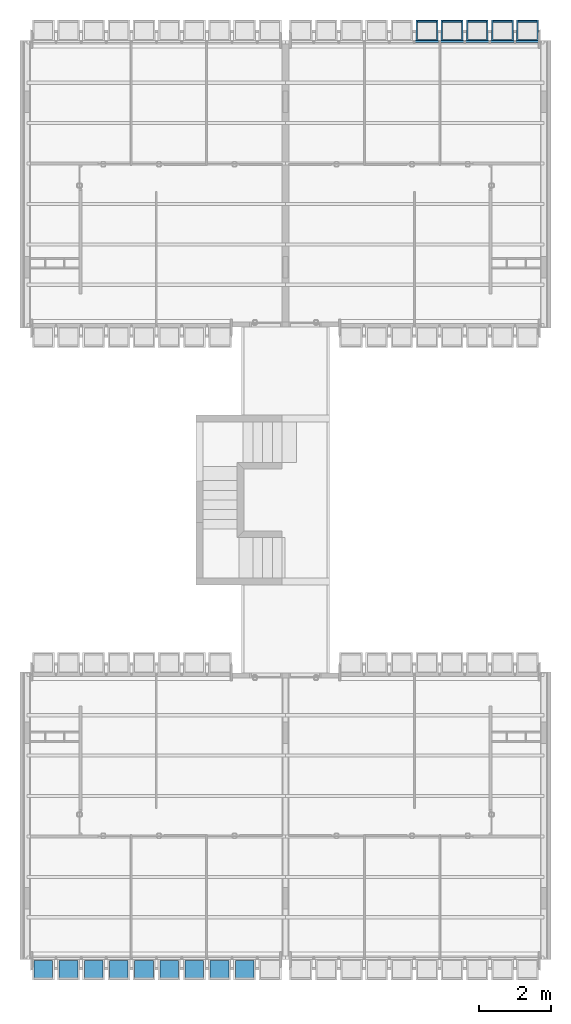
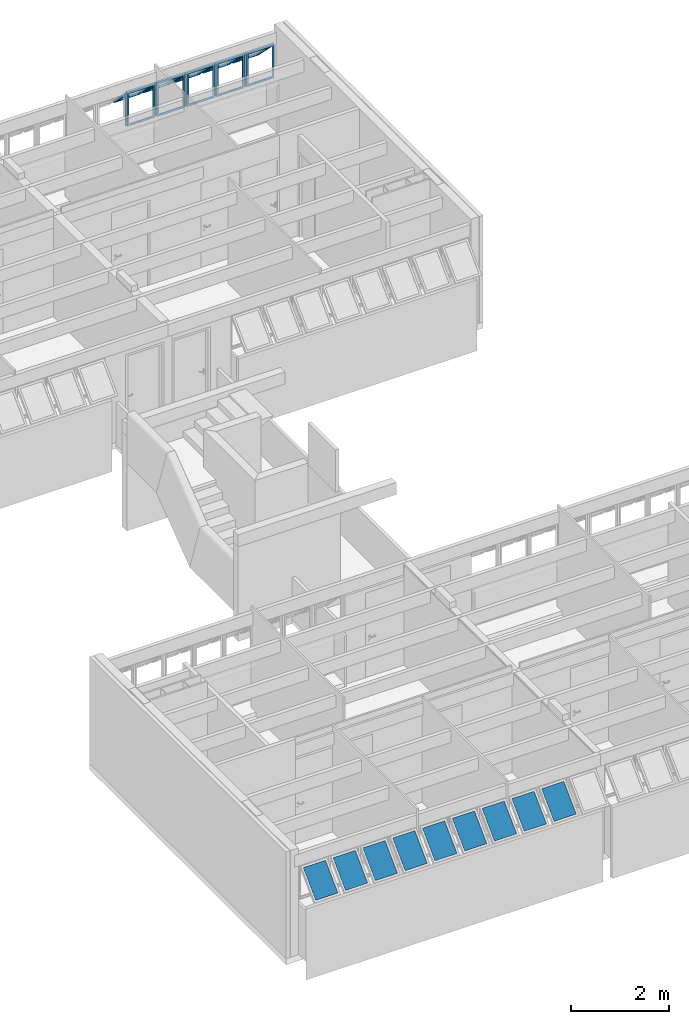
# One storey, part 35 of 38: 14 building element parts, 16 elements without a shape of their own.
"""IFC2X3 building model written with IfcOpenShell, lengths in millimetres."""

from ifc_helpers import new_model, entity, si_unit, converted_unit, derived_unit, money_unit, direction, frame, origin_with_axes, place, context, subcontext, project, spatial, faceted_brep, source, transform, mapped, material, type_object, element, aggregate, save


model = new_model("IFC2X3")

# Units and contexts
model_context = context("Model", 3, precision=0.01, world=origin_with_axes(), true_north=direction((0.0, 1.0)))
body_context = subcontext(model_context, "Body", "Model", "MODEL_VIEW")
ifc_project = project(units=[si_unit("LENGTHUNIT", "METRE", prefix="MILLI"), si_unit("AREAUNIT", "SQUARE_METRE"), si_unit("VOLUMEUNIT", "CUBIC_METRE"), converted_unit("PLANEANGLEUNIT", "DEGREE", entity("IfcPlaneAngleMeasure", 0.0174532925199), si_unit("PLANEANGLEUNIT", "RADIAN"), dimensions=[0, 0, 0, 0, 0, 0, 0]), money_unit("USD"), converted_unit("TIMEUNIT", "Year", entity("IfcTimeMeasure", 31556926.0), si_unit("TIMEUNIT", "SECOND"), dimensions=[0, 0, 1, 0, 0, 0, 0]), si_unit("MASSUNIT", "GRAM", prefix="KILO"), si_unit("THERMODYNAMICTEMPERATUREUNIT", "DEGREE_CELSIUS"), si_unit("LUMINOUSINTENSITYUNIT", "LUMEN"), si_unit("ENERGYUNIT", "JOULE", prefix="MEGA"), derived_unit("THERMALCONDUCTANCEUNIT", [(si_unit("POWERUNIT", "WATT"), 1), (si_unit("LENGTHUNIT", "METRE"), -1), (si_unit("THERMODYNAMICTEMPERATUREUNIT", "KELVIN"), -1)]), derived_unit("SPECIFICHEATCAPACITYUNIT", [(si_unit("ENERGYUNIT", "JOULE"), 1), (si_unit("MASSUNIT", "GRAM", prefix="KILO"), -1), (si_unit("THERMODYNAMICTEMPERATUREUNIT", "KELVIN"), -1)]), derived_unit("MASSDENSITYUNIT", [(si_unit("MASSUNIT", "GRAM", prefix="KILO"), 1), (si_unit("VOLUMEUNIT", "CUBIC_METRE"), -1)])], contexts=[model_context])

# Site, building, storey
site_placement = place(None, origin_with_axes())
site = spatial("IfcSite", under=ifc_project, at=site_placement, Name="Local", CompositionType="ELEMENT")
building_placement = place(site_placement, origin_with_axes())
building = spatial("IfcBuilding", under=site, at=building_placement, Name="Construção", CompositionType="ELEMENT")
storey_placement = place(building_placement, frame((0.0, 0.0, 2650.0), z_axis=(0.0, 0.0, 1.0), x_axis=(1.0, 0.0, 0.0)))
storey = spatial("IfcBuildingStorey", under=building, at=storey_placement, Name="Segundo Pavimento", CompositionType="ELEMENT", Elevation=2650.0)

# Window, plate, building element part
window_style = type_object("IfcWindowStyle", Name="Tipo de Parede Cortina", ConstructionType="NOTDEFINED", OperationType="NOTDEFINED", ParameterTakesPrecedence=False, Sizeable=False)
window_1_placement = place(storey_placement, frame((8520.0, 25844.9790225, 1355.02054151), z_axis=(0.0, 0.0, 1.0), x_axis=(1.0, 0.0, 0.0)))
window_1 = element("IfcWindow", 1, at=window_1_placement, inside=storey, type_object=window_style, Name="APTO8-JANELA-001")
plate_type = type_object("IfcPlateType", Name="Painel Principal 690 x 845 x 20", PredefinedType="CURTAIN_PANEL")
plate_1_placement = place(window_1_placement, frame((3500.0, 0.0, 422.499945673), z_axis=(0.0, 0.0, 1.0), x_axis=(1.0, 0.0, 0.0)))
plate_1 = element("IfcPlate", 2, at=plate_1_placement, type_object=plate_type, Name="APTO8-Painel-Prin-013")
ifc_material_1 = material(Name="Alumínio")
shared_shape_1 = source(origin_with_axes(), body_context, "Body", "Brep", [
    faceted_brep([(25.0000036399, 0.0, -40.0), (674.999997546, 0.0, -40.0), (674.999997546, 0.0, -35.0), (25.0000036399, 0.0, -35.0), (70.0000036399, 45.0, -40.0), (629.999997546, 45.0, -40.0), (629.999997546, 45.0, -35.0), (70.0000036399, 45.0, -35.0)], [[[0, 1, 2, 3]], [[0, 4, 5, 1]], [[1, 5, 6, 2]], [[3, 2, 6, 7]], [[4, 0, 3, 7]], [[5, 4, 7, 6]]]),
    faceted_brep([(674.999997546, 0.0, -40.0), (674.999997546, 844.999891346, -40.0), (674.999997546, 844.999891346, -35.0), (674.999997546, 0.0, -35.0), (629.999997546, 45.0, -40.0), (629.999997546, 799.999891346, -40.0), (629.999997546, 799.999891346, -35.0), (629.999997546, 45.0, -35.0)], [[[0, 1, 2, 3]], [[0, 4, 5, 1]], [[1, 5, 6, 2]], [[3, 2, 6, 7]], [[4, 0, 3, 7]], [[5, 4, 7, 6]]]),
    faceted_brep([(25.0000036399, 844.999891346, -40.0), (70.0000036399, 799.999891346, -40.0), (70.0000036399, 799.999891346, -35.0), (25.0000036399, 844.999891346, -35.0), (674.999997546, 844.999891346, -40.0), (629.999997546, 799.999891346, -40.0), (629.999997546, 799.999891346, -35.0), (674.999997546, 844.999891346, -35.0)], [[[0, 1, 2, 3]], [[0, 4, 5, 1]], [[1, 5, 6, 2]], [[3, 2, 6, 7]], [[4, 0, 3, 7]], [[5, 4, 7, 6]]]),
    faceted_brep([(25.0000036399, 0.0, -40.0), (70.0000036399, 45.0, -40.0), (70.0000036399, 45.0, -35.0), (25.0000036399, 0.0, -35.0), (25.0000036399, 844.999891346, -40.0), (70.0000036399, 799.999891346, -40.0), (70.0000036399, 799.999891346, -35.0), (25.0000036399, 844.999891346, -35.0)], [[[0, 1, 2, 3]], [[0, 4, 5, 1]], [[1, 5, 6, 2]], [[3, 2, 6, 7]], [[4, 0, 3, 7]], [[5, 4, 7, 6]]]),
    faceted_brep([(25.0000036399, 0.0, -35.0), (674.999997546, 0.0, -35.0), (674.999997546, 0.0, 15.0), (25.0000036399, 0.0, 15.0), (45.0000036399, 20.0, -35.0), (654.999997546, 20.0, -35.0), (654.999997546, 20.0, 15.0), (45.0000036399, 20.0, 15.0)], [[[0, 1, 2, 3]], [[0, 4, 5, 1]], [[1, 5, 6, 2]], [[3, 2, 6, 7]], [[4, 0, 3, 7]], [[5, 4, 7, 6]]]),
    faceted_brep([(674.999997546, 0.0, -35.0), (674.999997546, 844.999891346, -35.0), (674.999997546, 844.999891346, 15.0), (674.999997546, 0.0, 15.0), (654.999997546, 20.0, -35.0), (654.999997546, 824.999891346, -35.0), (654.999997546, 824.999891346, 15.0), (654.999997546, 20.0, 15.0)], [[[0, 1, 2, 3]], [[0, 4, 5, 1]], [[1, 5, 6, 2]], [[3, 2, 6, 7]], [[4, 0, 3, 7]], [[5, 4, 7, 6]]]),
    faceted_brep([(25.0000036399, 844.999891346, -35.0), (45.0000036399, 824.999891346, -35.0), (45.0000036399, 824.999891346, 15.0), (25.0000036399, 844.999891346, 15.0), (674.999997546, 844.999891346, -35.0), (654.999997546, 824.999891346, -35.0), (654.999997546, 824.999891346, 15.0), (674.999997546, 844.999891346, 15.0)], [[[0, 1, 2, 3]], [[0, 4, 5, 1]], [[1, 5, 6, 2]], [[3, 2, 6, 7]], [[4, 0, 3, 7]], [[5, 4, 7, 6]]]),
    faceted_brep([(25.0000036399, 0.0, -35.0), (45.0000036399, 20.0, -35.0), (45.0000036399, 20.0, 15.0), (25.0000036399, 0.0, 15.0), (25.0000036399, 844.999891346, -35.0), (45.0000036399, 824.999891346, -35.0), (45.0000036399, 824.999891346, 15.0), (25.0000036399, 844.999891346, 15.0)], [[[0, 1, 2, 3]], [[0, 4, 5, 1]], [[1, 5, 6, 2]], [[3, 2, 6, 7]], [[4, 0, 3, 7]], [[5, 4, 7, 6]]]),
    faceted_brep([(694.999995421, 0.0, -10.0), (694.999995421, 844.999891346, -10.0), (694.999995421, 844.999891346, 10.0), (694.999995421, 0.0, 10.0), (674.999997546, 0.0, -10.0), (674.999997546, 844.999891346, -10.0), (674.999997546, 844.999891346, 10.0), (674.999997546, 0.0, 10.0)], [[[0, 1, 2, 3]], [[0, 4, 5, 1]], [[1, 5, 6, 2]], [[3, 2, 6, 7]], [[4, 0, 3, 7]], [[5, 4, 7, 6]]]),
    faceted_brep([(5.00000576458, 844.999891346, -10.0), (5.00000576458, 0.0, -10.0), (5.00000576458, 0.0, 10.0), (5.00000576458, 844.999891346, 10.0), (25.0000036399, 844.999891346, -10.0), (25.0000036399, 0.0, -10.0), (25.0000036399, 0.0, 10.0), (25.0000036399, 844.999891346, 10.0)], [[[0, 1, 2, 3]], [[0, 4, 5, 1]], [[1, 5, 6, 2]], [[3, 2, 6, 7]], [[4, 0, 3, 7]], [[5, 4, 7, 6]]]),
    faceted_brep([(90.0000036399, 252.243475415, 517.045737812), (90.0000036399, 757.824747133, 11.4644660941), (90.0000036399, 796.715620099, 50.3553390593), (90.0000036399, 291.13434838, 555.936610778), (45.0000036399, 220.423670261, 548.865542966), (45.0000036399, 789.644552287, -20.3553390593), (45.0000036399, 828.535425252, 18.5355339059), (45.0000036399, 259.314543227, 587.756415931)], [[[0, 1, 2, 3]], [[0, 4, 5, 1]], [[1, 5, 6, 2]], [[3, 2, 6, 7]], [[4, 0, 3, 7]], [[5, 4, 7, 6]]]),
    faceted_brep([(654.999997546, 220.423670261, 548.865542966), (654.999997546, 789.644552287, -20.3553390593), (654.999997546, 828.535425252, 18.5355339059), (654.999997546, 259.314543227, 587.756415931), (609.999997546, 252.243475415, 517.045737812), (609.999997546, 757.824747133, 11.4644660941), (609.999997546, 796.715620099, 50.3553390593), (609.999997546, 291.13434838, 555.936610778)], [[[0, 1, 2, 3]], [[0, 4, 5, 1]], [[1, 5, 6, 2]], [[3, 2, 6, 7]], [[4, 0, 3, 7]], [[5, 4, 7, 6]]]),
    faceted_brep([(654.999997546, 220.423670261, 548.865542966), (609.999997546, 252.243475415, 517.045737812), (609.999997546, 291.13434838, 555.936610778), (654.999997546, 259.314543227, 587.756415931), (45.0000036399, 220.423670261, 548.865542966), (90.0000036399, 252.243475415, 517.045737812), (90.0000036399, 291.13434838, 555.936610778), (45.0000036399, 259.314543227, 587.756415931)], [[[0, 1, 2, 3]], [[0, 4, 5, 1]], [[1, 5, 6, 2]], [[3, 2, 6, 7]], [[4, 0, 3, 7]], [[5, 4, 7, 6]]]),
    faceted_brep([(45.0000036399, 789.644552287, -20.3553390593), (90.0000036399, 757.824747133, 11.4644660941), (90.0000036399, 796.715620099, 50.3553390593), (45.0000036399, 828.535425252, 18.5355339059), (654.999997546, 789.644552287, -20.3553390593), (609.999997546, 757.824747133, 11.4644660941), (609.999997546, 796.715620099, 50.3553390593), (654.999997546, 828.535425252, 18.5355339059)], [[[0, 1, 2, 3]], [[0, 4, 5, 1]], [[1, 5, 6, 2]], [[3, 2, 6, 7]], [[4, 0, 3, 7]], [[5, 4, 7, 6]]]),
])
building_element_part_1_placement = place(plate_1_placement, origin_with_axes())
building_element_part_1 = element("IfcBuildingElementPart", 3, at=building_element_part_1_placement, material=ifc_material_1, Name="Alumínio", context=body_context, shape_type="MappedRepresentation", body=[
    mapped(shared_shape_1, transform((350.0, 0.0, -422.499945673), x_axis=(-1.0, 0.0, 0.0), y_axis=(0.0, 0.0, 1.0), z_axis=(0.0, 1.0, 0.0))),
])
aggregate(plate_1, [building_element_part_1])

# Window, plates, building element parts
window_2_placement = place(storey_placement, frame((6250.0, 315.020977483, 1355.02054151), z_axis=(0.0, 0.0, 1.0), x_axis=(1.0, 0.0, 0.0)))
window_2 = element("IfcWindow", 4, at=window_2_placement, inside=storey, type_object=window_style, Name="APTO5-JANELA-001")
plate_2_placement = place(window_2_placement, frame((0.0, 0.0, 422.499945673), z_axis=(0.0, 0.0, 1.0), x_axis=(-1.0, 0.0, 0.0)))
plate_2 = element("IfcPlate", 5, at=plate_2_placement, type_object=plate_type, Name="APTO5-Painel-Prin-030")
ifc_material_2 = material(Name="Vidro")
shared_shape_2 = source(origin_with_axes(), body_context, "Body", "Brep", [
    faceted_brep([(90.0000036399, 272.749572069, 537.551834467), (609.999997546, 272.749572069, 537.551834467), (609.999997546, 284.063280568, 548.865542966), (90.0000036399, 284.063280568, 548.865542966), (90.0000036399, 778.330843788, 31.9705627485), (609.999997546, 778.330843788, 31.9705627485), (609.999997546, 789.644552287, 43.2842712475), (90.0000036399, 789.644552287, 43.2842712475)], [[[0, 1, 2, 3]], [[0, 4, 5, 1]], [[1, 5, 6, 2]], [[3, 2, 6, 7]], [[4, 0, 3, 7]], [[5, 4, 7, 6]]]),
])
building_element_part_2_placement = place(plate_2_placement, origin_with_axes())
building_element_part_2 = element("IfcBuildingElementPart", 6, at=building_element_part_2_placement, material=ifc_material_2, Name="Vidro", context=body_context, shape_type="MappedRepresentation", body=[
    mapped(shared_shape_2, transform((350.0, 0.0, -422.499945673), x_axis=(-1.0, 0.0, 0.0), y_axis=(0.0, 0.0, 1.0), z_axis=(0.0, 1.0, 0.0))),
])
aggregate(plate_2, [building_element_part_2])
plate_3_placement = place(window_2_placement, frame((-700.0, 0.0, 422.499945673), z_axis=(0.0, 0.0, 1.0), x_axis=(-1.0, 0.0, 0.0)))
plate_3 = element("IfcPlate", 7, at=plate_3_placement, type_object=plate_type, Name="APTO5-Painel-Prin-020")
building_element_part_3_placement = place(plate_3_placement, origin_with_axes())
building_element_part_3 = element("IfcBuildingElementPart", 8, at=building_element_part_3_placement, material=ifc_material_2, Name="Vidro", context=body_context, shape_type="MappedRepresentation", body=[
    mapped(shared_shape_2, transform((350.0, 0.0, -422.499945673), x_axis=(-1.0, 0.0, 0.0), y_axis=(0.0, 0.0, 1.0), z_axis=(0.0, 1.0, 0.0))),
])
aggregate(plate_3, [building_element_part_3])
plate_4_placement = place(window_2_placement, frame((-1400.0, 0.0, 422.499945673), z_axis=(0.0, 0.0, 1.0), x_axis=(-1.0, 0.0, 0.0)))
plate_4 = element("IfcPlate", 9, at=plate_4_placement, type_object=plate_type, Name="APTO5-Painel-Prin-029")
building_element_part_4_placement = place(plate_4_placement, origin_with_axes())
building_element_part_4 = element("IfcBuildingElementPart", 10, at=building_element_part_4_placement, material=ifc_material_2, Name="Vidro", context=body_context, shape_type="MappedRepresentation", body=[
    mapped(shared_shape_2, transform((350.0, 0.0, -422.499945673), x_axis=(-1.0, 0.0, 0.0), y_axis=(0.0, 0.0, 1.0), z_axis=(0.0, 1.0, 0.0))),
])
aggregate(plate_4, [building_element_part_4])
plate_5_placement = place(window_2_placement, frame((-3500.0, 0.0, 422.499945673), z_axis=(0.0, 0.0, 1.0), x_axis=(-1.0, 0.0, 0.0)))
plate_5 = element("IfcPlate", 11, at=plate_5_placement, type_object=plate_type, Name="APTO5-Painel-Prin-013")
building_element_part_5_placement = place(plate_5_placement, origin_with_axes())
building_element_part_5 = element("IfcBuildingElementPart", 12, at=building_element_part_5_placement, material=ifc_material_2, Name="Vidro", context=body_context, shape_type="MappedRepresentation", body=[
    mapped(shared_shape_2, transform((350.0, 0.0, -422.499945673), x_axis=(-1.0, 0.0, 0.0), y_axis=(0.0, 0.0, 1.0), z_axis=(0.0, 1.0, 0.0))),
])
aggregate(plate_5, [building_element_part_5])

# Plate, building element part
plate_6_placement = place(window_1_placement, frame((5600.0, 0.0, 422.499945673), z_axis=(0.0, 0.0, 1.0), x_axis=(1.0, 0.0, 0.0)))
plate_6 = element("IfcPlate", 13, at=plate_6_placement, type_object=plate_type, Name="APTO8-Painel-Prin-013")
shared_shape_3 = source(origin_with_axes(), body_context, "Body", "Brep", [
    faceted_brep([(25.0000036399, 0.0, -40.0), (674.999997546, 0.0, -40.0), (674.999997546, 0.0, -35.0), (25.0000036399, 0.0, -35.0), (70.0000036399, 45.0, -40.0), (629.999997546, 45.0, -40.0), (629.999997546, 45.0, -35.0), (70.0000036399, 45.0, -35.0)], [[[0, 1, 2, 3]], [[0, 4, 5, 1]], [[1, 5, 6, 2]], [[3, 2, 6, 7]], [[4, 0, 3, 7]], [[5, 4, 7, 6]]]),
    faceted_brep([(674.999997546, 0.0, -40.0), (674.999997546, 844.999891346, -40.0), (674.999997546, 844.999891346, -35.0), (674.999997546, 0.0, -35.0), (629.999997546, 45.0, -40.0), (629.999997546, 799.999891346, -40.0), (629.999997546, 799.999891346, -35.0), (629.999997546, 45.0, -35.0)], [[[0, 1, 2, 3]], [[0, 4, 5, 1]], [[1, 5, 6, 2]], [[3, 2, 6, 7]], [[4, 0, 3, 7]], [[5, 4, 7, 6]]]),
    faceted_brep([(25.0000036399, 844.999891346, -40.0), (70.0000036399, 799.999891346, -40.0), (70.0000036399, 799.999891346, -35.0), (25.0000036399, 844.999891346, -35.0), (674.999997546, 844.999891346, -40.0), (629.999997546, 799.999891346, -40.0), (629.999997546, 799.999891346, -35.0), (674.999997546, 844.999891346, -35.0)], [[[0, 1, 2, 3]], [[0, 4, 5, 1]], [[1, 5, 6, 2]], [[3, 2, 6, 7]], [[4, 0, 3, 7]], [[5, 4, 7, 6]]]),
    faceted_brep([(25.0000036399, 0.0, -40.0), (70.0000036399, 45.0, -40.0), (70.0000036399, 45.0, -35.0), (25.0000036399, 0.0, -35.0), (25.0000036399, 844.999891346, -40.0), (70.0000036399, 799.999891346, -40.0), (70.0000036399, 799.999891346, -35.0), (25.0000036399, 844.999891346, -35.0)], [[[0, 1, 2, 3]], [[0, 4, 5, 1]], [[1, 5, 6, 2]], [[3, 2, 6, 7]], [[4, 0, 3, 7]], [[5, 4, 7, 6]]]),
    faceted_brep([(25.0000036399, 0.0, -35.0), (674.999997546, 0.0, -35.0), (674.999997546, 0.0, 15.0), (25.0000036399, 0.0, 15.0), (45.0000036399, 20.0, -35.0), (654.999997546, 20.0, -35.0), (654.999997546, 20.0, 15.0), (45.0000036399, 20.0, 15.0)], [[[0, 1, 2, 3]], [[0, 4, 5, 1]], [[1, 5, 6, 2]], [[3, 2, 6, 7]], [[4, 0, 3, 7]], [[5, 4, 7, 6]]]),
    faceted_brep([(674.999997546, 0.0, -35.0), (674.999997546, 844.999891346, -35.0), (674.999997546, 844.999891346, 15.0), (674.999997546, 0.0, 15.0), (654.999997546, 20.0, -35.0), (654.999997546, 824.999891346, -35.0), (654.999997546, 824.999891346, 15.0), (654.999997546, 20.0, 15.0)], [[[0, 1, 2, 3]], [[0, 4, 5, 1]], [[1, 5, 6, 2]], [[3, 2, 6, 7]], [[4, 0, 3, 7]], [[5, 4, 7, 6]]]),
    faceted_brep([(25.0000036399, 844.999891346, -35.0), (45.0000036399, 824.999891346, -35.0), (45.0000036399, 824.999891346, 15.0), (25.0000036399, 844.999891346, 15.0), (674.999997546, 844.999891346, -35.0), (654.999997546, 824.999891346, -35.0), (654.999997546, 824.999891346, 15.0), (674.999997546, 844.999891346, 15.0)], [[[0, 1, 2, 3]], [[0, 4, 5, 1]], [[1, 5, 6, 2]], [[3, 2, 6, 7]], [[4, 0, 3, 7]], [[5, 4, 7, 6]]]),
    faceted_brep([(25.0000036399, 0.0, -35.0), (45.0000036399, 20.0, -35.0), (45.0000036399, 20.0, 15.0), (25.0000036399, 0.0, 15.0), (25.0000036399, 844.999891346, -35.0), (45.0000036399, 824.999891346, -35.0), (45.0000036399, 824.999891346, 15.0), (25.0000036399, 844.999891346, 15.0)], [[[0, 1, 2, 3]], [[0, 4, 5, 1]], [[1, 5, 6, 2]], [[3, 2, 6, 7]], [[4, 0, 3, 7]], [[5, 4, 7, 6]]]),
    faceted_brep([(694.999995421, 0.0, -10.0), (694.999995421, 844.999891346, -10.0), (694.999995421, 844.999891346, 10.0), (694.999995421, 0.0, 10.0), (674.999997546, 0.0, -10.0), (674.999997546, 844.999891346, -10.0), (674.999997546, 844.999891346, 10.0), (674.999997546, 0.0, 10.0)], [[[0, 1, 2, 3]], [[0, 4, 5, 1]], [[1, 5, 6, 2]], [[3, 2, 6, 7]], [[4, 0, 3, 7]], [[5, 4, 7, 6]]]),
    faceted_brep([(5.00000576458, 844.999891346, -10.0), (5.00000576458, 0.0, -10.0), (5.00000576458, 0.0, 10.0), (5.00000576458, 844.999891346, 10.0), (25.0000036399, 844.999891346, -10.0), (25.0000036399, 0.0, -10.0), (25.0000036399, 0.0, 10.0), (25.0000036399, 844.999891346, 10.0)], [[[0, 1, 2, 3]], [[0, 4, 5, 1]], [[1, 5, 6, 2]], [[3, 2, 6, 7]], [[4, 0, 3, 7]], [[5, 4, 7, 6]]]),
    faceted_brep([(90.0000036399, 252.243475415, 517.045737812), (90.0000036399, 757.824747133, 11.4644660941), (90.0000036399, 796.715620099, 50.3553390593), (90.0000036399, 291.13434838, 555.936610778), (45.0000036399, 220.423670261, 548.865542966), (45.0000036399, 789.644552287, -20.3553390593), (45.0000036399, 828.535425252, 18.5355339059), (45.0000036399, 259.314543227, 587.756415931)], [[[0, 1, 2, 3]], [[0, 4, 5, 1]], [[1, 5, 6, 2]], [[3, 2, 6, 7]], [[4, 0, 3, 7]], [[5, 4, 7, 6]]]),
    faceted_brep([(654.999997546, 220.423670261, 548.865542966), (654.999997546, 789.644552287, -20.3553390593), (654.999997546, 828.535425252, 18.5355339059), (654.999997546, 259.314543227, 587.756415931), (609.999997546, 252.243475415, 517.045737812), (609.999997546, 757.824747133, 11.4644660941), (609.999997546, 796.715620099, 50.3553390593), (609.999997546, 291.13434838, 555.936610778)], [[[0, 1, 2, 3]], [[0, 4, 5, 1]], [[1, 5, 6, 2]], [[3, 2, 6, 7]], [[4, 0, 3, 7]], [[5, 4, 7, 6]]]),
    faceted_brep([(654.999997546, 220.423670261, 548.865542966), (609.999997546, 252.243475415, 517.045737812), (609.999997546, 291.13434838, 555.936610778), (654.999997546, 259.314543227, 587.756415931), (45.0000036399, 220.423670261, 548.865542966), (90.0000036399, 252.243475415, 517.045737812), (90.0000036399, 291.13434838, 555.936610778), (45.0000036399, 259.314543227, 587.756415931)], [[[0, 1, 2, 3]], [[0, 4, 5, 1]], [[1, 5, 6, 2]], [[3, 2, 6, 7]], [[4, 0, 3, 7]], [[5, 4, 7, 6]]]),
    faceted_brep([(45.0000036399, 789.644552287, -20.3553390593), (90.0000036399, 757.824747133, 11.4644660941), (90.0000036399, 796.715620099, 50.3553390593), (45.0000036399, 828.535425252, 18.5355339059), (654.999997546, 789.644552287, -20.3553390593), (609.999997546, 757.824747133, 11.4644660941), (609.999997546, 796.715620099, 50.3553390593), (654.999997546, 828.535425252, 18.5355339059)], [[[0, 1, 2, 3]], [[0, 4, 5, 1]], [[1, 5, 6, 2]], [[3, 2, 6, 7]], [[4, 0, 3, 7]], [[5, 4, 7, 6]]]),
])
building_element_part_6_placement = place(plate_6_placement, origin_with_axes())
building_element_part_6 = element("IfcBuildingElementPart", 14, at=building_element_part_6_placement, material=ifc_material_1, Name="Alumínio", context=body_context, shape_type="MappedRepresentation", body=[
    mapped(shared_shape_3, transform((350.0, 0.0, -422.499945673), x_axis=(-1.0, 0.0, 0.0), y_axis=(0.0, 0.0, 1.0), z_axis=(0.0, 1.0, 0.0))),
])
aggregate(plate_6, [building_element_part_6])

plate_7_placement = place(window_1_placement, frame((4900.0, 0.0, 422.499945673), z_axis=(0.0, 0.0, 1.0), x_axis=(1.0, 0.0, 0.0)))
plate_7 = element("IfcPlate", 15, at=plate_7_placement, type_object=plate_type, Name="APTO8-Painel-Prin-013")
building_element_part_7_placement = place(plate_7_placement, origin_with_axes())
building_element_part_7 = element("IfcBuildingElementPart", 16, at=building_element_part_7_placement, material=ifc_material_1, Name="Alumínio", context=body_context, shape_type="MappedRepresentation", body=[
    mapped(shared_shape_3, transform((350.0, 0.0, -422.499945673), x_axis=(-1.0, 0.0, 0.0), y_axis=(0.0, 0.0, 1.0), z_axis=(0.0, 1.0, 0.0))),
])
aggregate(plate_7, [building_element_part_7])

plate_8_placement = place(window_2_placement, frame((-5600.0, 0.0, 422.499945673), z_axis=(0.0, 0.0, 1.0), x_axis=(-1.0, 0.0, 0.0)))
plate_8 = element("IfcPlate", 17, at=plate_8_placement, type_object=plate_type, Name="APTO5-Painel-Prin-013")
shared_shape_4 = source(origin_with_axes(), body_context, "Body", "Brep", [
    faceted_brep([(90.0000036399, 272.749572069, 537.551834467), (609.999997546, 272.749572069, 537.551834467), (609.999997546, 284.063280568, 548.865542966), (90.0000036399, 284.063280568, 548.865542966), (90.0000036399, 778.330843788, 31.9705627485), (609.999997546, 778.330843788, 31.9705627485), (609.999997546, 789.644552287, 43.2842712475), (90.0000036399, 789.644552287, 43.2842712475)], [[[0, 1, 2, 3]], [[0, 4, 5, 1]], [[1, 5, 6, 2]], [[3, 2, 6, 7]], [[4, 0, 3, 7]], [[5, 4, 7, 6]]]),
])
building_element_part_8_placement = place(plate_8_placement, origin_with_axes())
building_element_part_8 = element("IfcBuildingElementPart", 18, at=building_element_part_8_placement, material=ifc_material_2, Name="Vidro", context=body_context, shape_type="MappedRepresentation", body=[
    mapped(shared_shape_4, transform((350.0, 0.0, -422.499945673), x_axis=(-1.0, 0.0, 0.0), y_axis=(0.0, 0.0, 1.0), z_axis=(0.0, 1.0, 0.0))),
])
aggregate(plate_8, [building_element_part_8])

plate_9_placement = place(window_2_placement, frame((-4900.0, 0.0, 422.499945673), z_axis=(0.0, 0.0, 1.0), x_axis=(-1.0, 0.0, 0.0)))
plate_9 = element("IfcPlate", 19, at=plate_9_placement, type_object=plate_type, Name="APTO5-Painel-Prin-013")
building_element_part_9_placement = place(plate_9_placement, origin_with_axes())
building_element_part_9 = element("IfcBuildingElementPart", 20, at=building_element_part_9_placement, material=ifc_material_2, Name="Vidro", context=body_context, shape_type="MappedRepresentation", body=[
    mapped(shared_shape_4, transform((350.0, 0.0, -422.499945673), x_axis=(-1.0, 0.0, 0.0), y_axis=(0.0, 0.0, 1.0), z_axis=(0.0, 1.0, 0.0))),
])
aggregate(plate_9, [building_element_part_9])

plate_10_placement = place(window_2_placement, frame((-2100.0, 0.0, 422.499945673), z_axis=(0.0, 0.0, 1.0), x_axis=(-1.0, 0.0, 0.0)))
plate_10 = element("IfcPlate", 21, at=plate_10_placement, type_object=plate_type, Name="APTO5-Painel-Prin-025")
building_element_part_10_placement = place(plate_10_placement, origin_with_axes())
building_element_part_10 = element("IfcBuildingElementPart", 22, at=building_element_part_10_placement, material=ifc_material_2, Name="Vidro", context=body_context, shape_type="MappedRepresentation", body=[
    mapped(shared_shape_4, transform((350.0, 0.0, -422.499945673), x_axis=(-1.0, 0.0, 0.0), y_axis=(0.0, 0.0, 1.0), z_axis=(0.0, 1.0, 0.0))),
])
aggregate(plate_10, [building_element_part_10])

plate_11_placement = place(window_1_placement, frame((2800.0, 0.0, 422.499945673), z_axis=(0.0, 0.0, 1.0), x_axis=(1.0, 0.0, 0.0)))
plate_11 = element("IfcPlate", 23, at=plate_11_placement, type_object=plate_type, Name="APTO8-Painel-Prin-013")
shared_shape_5 = source(origin_with_axes(), body_context, "Body", "Brep", [
    faceted_brep([(25.0000036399, 0.0, -40.0), (674.999997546, 0.0, -40.0), (674.999997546, 0.0, -35.0), (25.0000036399, 0.0, -35.0), (70.0000036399, 45.0, -40.0), (629.999997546, 45.0, -40.0), (629.999997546, 45.0, -35.0), (70.0000036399, 45.0, -35.0)], [[[0, 1, 2, 3]], [[0, 4, 5, 1]], [[1, 5, 6, 2]], [[3, 2, 6, 7]], [[4, 0, 3, 7]], [[5, 4, 7, 6]]]),
    faceted_brep([(674.999997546, 0.0, -40.0), (674.999997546, 844.999891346, -40.0), (674.999997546, 844.999891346, -35.0), (674.999997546, 0.0, -35.0), (629.999997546, 45.0, -40.0), (629.999997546, 799.999891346, -40.0), (629.999997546, 799.999891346, -35.0), (629.999997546, 45.0, -35.0)], [[[0, 1, 2, 3]], [[0, 4, 5, 1]], [[1, 5, 6, 2]], [[3, 2, 6, 7]], [[4, 0, 3, 7]], [[5, 4, 7, 6]]]),
    faceted_brep([(25.0000036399, 844.999891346, -40.0), (70.0000036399, 799.999891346, -40.0), (70.0000036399, 799.999891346, -35.0), (25.0000036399, 844.999891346, -35.0), (674.999997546, 844.999891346, -40.0), (629.999997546, 799.999891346, -40.0), (629.999997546, 799.999891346, -35.0), (674.999997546, 844.999891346, -35.0)], [[[0, 1, 2, 3]], [[0, 4, 5, 1]], [[1, 5, 6, 2]], [[3, 2, 6, 7]], [[4, 0, 3, 7]], [[5, 4, 7, 6]]]),
    faceted_brep([(25.0000036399, 0.0, -40.0), (70.0000036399, 45.0, -40.0), (70.0000036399, 45.0, -35.0), (25.0000036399, 0.0, -35.0), (25.0000036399, 844.999891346, -40.0), (70.0000036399, 799.999891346, -40.0), (70.0000036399, 799.999891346, -35.0), (25.0000036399, 844.999891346, -35.0)], [[[0, 1, 2, 3]], [[0, 4, 5, 1]], [[1, 5, 6, 2]], [[3, 2, 6, 7]], [[4, 0, 3, 7]], [[5, 4, 7, 6]]]),
    faceted_brep([(25.0000036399, 0.0, -35.0), (674.999997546, 0.0, -35.0), (674.999997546, 0.0, 15.0), (25.0000036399, 0.0, 15.0), (45.0000036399, 20.0, -35.0), (654.999997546, 20.0, -35.0), (654.999997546, 20.0, 15.0), (45.0000036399, 20.0, 15.0)], [[[0, 1, 2, 3]], [[0, 4, 5, 1]], [[1, 5, 6, 2]], [[3, 2, 6, 7]], [[4, 0, 3, 7]], [[5, 4, 7, 6]]]),
    faceted_brep([(674.999997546, 0.0, -35.0), (674.999997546, 844.999891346, -35.0), (674.999997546, 844.999891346, 15.0), (674.999997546, 0.0, 15.0), (654.999997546, 20.0, -35.0), (654.999997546, 824.999891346, -35.0), (654.999997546, 824.999891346, 15.0), (654.999997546, 20.0, 15.0)], [[[0, 1, 2, 3]], [[0, 4, 5, 1]], [[1, 5, 6, 2]], [[3, 2, 6, 7]], [[4, 0, 3, 7]], [[5, 4, 7, 6]]]),
    faceted_brep([(25.0000036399, 844.999891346, -35.0), (45.0000036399, 824.999891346, -35.0), (45.0000036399, 824.999891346, 15.0), (25.0000036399, 844.999891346, 15.0), (674.999997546, 844.999891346, -35.0), (654.999997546, 824.999891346, -35.0), (654.999997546, 824.999891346, 15.0), (674.999997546, 844.999891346, 15.0)], [[[0, 1, 2, 3]], [[0, 4, 5, 1]], [[1, 5, 6, 2]], [[3, 2, 6, 7]], [[4, 0, 3, 7]], [[5, 4, 7, 6]]]),
    faceted_brep([(25.0000036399, 0.0, -35.0), (45.0000036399, 20.0, -35.0), (45.0000036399, 20.0, 15.0), (25.0000036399, 0.0, 15.0), (25.0000036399, 844.999891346, -35.0), (45.0000036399, 824.999891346, -35.0), (45.0000036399, 824.999891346, 15.0), (25.0000036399, 844.999891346, 15.0)], [[[0, 1, 2, 3]], [[0, 4, 5, 1]], [[1, 5, 6, 2]], [[3, 2, 6, 7]], [[4, 0, 3, 7]], [[5, 4, 7, 6]]]),
    faceted_brep([(694.999995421, 0.0, -10.0), (694.999995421, 844.999891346, -10.0), (694.999995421, 844.999891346, 10.0), (694.999995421, 0.0, 10.0), (674.999997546, 0.0, -10.0), (674.999997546, 844.999891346, -10.0), (674.999997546, 844.999891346, 10.0), (674.999997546, 0.0, 10.0)], [[[0, 1, 2, 3]], [[0, 4, 5, 1]], [[1, 5, 6, 2]], [[3, 2, 6, 7]], [[4, 0, 3, 7]], [[5, 4, 7, 6]]]),
    faceted_brep([(5.00000576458, 844.999891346, -10.0), (5.00000576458, 0.0, -10.0), (5.00000576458, 0.0, 10.0), (5.00000576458, 844.999891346, 10.0), (25.0000036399, 844.999891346, -10.0), (25.0000036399, 0.0, -10.0), (25.0000036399, 0.0, 10.0), (25.0000036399, 844.999891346, 10.0)], [[[0, 1, 2, 3]], [[0, 4, 5, 1]], [[1, 5, 6, 2]], [[3, 2, 6, 7]], [[4, 0, 3, 7]], [[5, 4, 7, 6]]]),
    faceted_brep([(90.0000036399, 252.243475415, 517.045737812), (90.0000036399, 757.824747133, 11.4644660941), (90.0000036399, 796.715620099, 50.3553390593), (90.0000036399, 291.13434838, 555.936610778), (45.0000036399, 220.423670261, 548.865542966), (45.0000036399, 789.644552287, -20.3553390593), (45.0000036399, 828.535425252, 18.5355339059), (45.0000036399, 259.314543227, 587.756415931)], [[[0, 1, 2, 3]], [[0, 4, 5, 1]], [[1, 5, 6, 2]], [[3, 2, 6, 7]], [[4, 0, 3, 7]], [[5, 4, 7, 6]]]),
    faceted_brep([(654.999997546, 220.423670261, 548.865542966), (654.999997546, 789.644552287, -20.3553390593), (654.999997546, 828.535425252, 18.5355339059), (654.999997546, 259.314543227, 587.756415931), (609.999997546, 252.243475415, 517.045737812), (609.999997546, 757.824747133, 11.4644660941), (609.999997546, 796.715620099, 50.3553390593), (609.999997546, 291.13434838, 555.936610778)], [[[0, 1, 2, 3]], [[0, 4, 5, 1]], [[1, 5, 6, 2]], [[3, 2, 6, 7]], [[4, 0, 3, 7]], [[5, 4, 7, 6]]]),
    faceted_brep([(654.999997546, 220.423670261, 548.865542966), (609.999997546, 252.243475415, 517.045737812), (609.999997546, 291.13434838, 555.936610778), (654.999997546, 259.314543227, 587.756415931), (45.0000036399, 220.423670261, 548.865542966), (90.0000036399, 252.243475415, 517.045737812), (90.0000036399, 291.13434838, 555.936610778), (45.0000036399, 259.314543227, 587.756415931)], [[[0, 1, 2, 3]], [[0, 4, 5, 1]], [[1, 5, 6, 2]], [[3, 2, 6, 7]], [[4, 0, 3, 7]], [[5, 4, 7, 6]]]),
    faceted_brep([(45.0000036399, 789.644552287, -20.3553390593), (90.0000036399, 757.824747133, 11.4644660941), (90.0000036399, 796.715620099, 50.3553390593), (45.0000036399, 828.535425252, 18.5355339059), (654.999997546, 789.644552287, -20.3553390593), (609.999997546, 757.824747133, 11.4644660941), (609.999997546, 796.715620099, 50.3553390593), (654.999997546, 828.535425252, 18.5355339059)], [[[0, 1, 2, 3]], [[0, 4, 5, 1]], [[1, 5, 6, 2]], [[3, 2, 6, 7]], [[4, 0, 3, 7]], [[5, 4, 7, 6]]]),
])
building_element_part_11_placement = place(plate_11_placement, origin_with_axes())
building_element_part_11 = element("IfcBuildingElementPart", 24, at=building_element_part_11_placement, material=ifc_material_1, Name="Alumínio", context=body_context, shape_type="MappedRepresentation", body=[
    mapped(shared_shape_5, transform((350.0, 0.0, -422.499945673), x_axis=(-1.0, 0.0, 0.0), y_axis=(0.0, 0.0, 1.0), z_axis=(0.0, 1.0, 0.0))),
])
aggregate(plate_11, [building_element_part_11])

# Plate
plate_12_placement = place(window_1_placement, frame((4200.0, 0.0, 422.499945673), z_axis=(0.0, 0.0, 1.0), x_axis=(1.0, 0.0, 0.0)))
plate_12 = element("IfcPlate", 25, at=plate_12_placement, type_object=plate_type, Name="APTO8-Painel-Prin-013")

aggregate(window_1, [plate_6, plate_7, plate_11, plate_12, plate_1])

# Building element part
building_element_part_12_placement = place(plate_12_placement, origin_with_axes())
building_element_part_12 = element("IfcBuildingElementPart", 26, at=building_element_part_12_placement, material=ifc_material_1, Name="Alumínio", context=body_context, shape_type="MappedRepresentation", body=[
    mapped(shared_shape_5, transform((350.0, 0.0, -422.499945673), x_axis=(-1.0, 0.0, 0.0), y_axis=(0.0, 0.0, 1.0), z_axis=(0.0, 1.0, 0.0))),
])

aggregate(plate_12, [building_element_part_12])

# Plate, building element part
plate_13_placement = place(window_2_placement, frame((-2800.0, 0.0, 422.499945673), z_axis=(0.0, 0.0, 1.0), x_axis=(-1.0, 0.0, 0.0)))
plate_13 = element("IfcPlate", 27, at=plate_13_placement, type_object=plate_type, Name="APTO5-Painel-Prin-013")
shared_shape_6 = source(origin_with_axes(), body_context, "Body", "Brep", [
    faceted_brep([(90.0000036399, 272.749572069, 537.551834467), (609.999997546, 272.749572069, 537.551834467), (609.999997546, 284.063280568, 548.865542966), (90.0000036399, 284.063280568, 548.865542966), (90.0000036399, 778.330843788, 31.9705627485), (609.999997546, 778.330843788, 31.9705627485), (609.999997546, 789.644552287, 43.2842712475), (90.0000036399, 789.644552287, 43.2842712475)], [[[0, 1, 2, 3]], [[0, 4, 5, 1]], [[1, 5, 6, 2]], [[3, 2, 6, 7]], [[4, 0, 3, 7]], [[5, 4, 7, 6]]]),
])
building_element_part_13_placement = place(plate_13_placement, origin_with_axes())
building_element_part_13 = element("IfcBuildingElementPart", 28, at=building_element_part_13_placement, material=ifc_material_2, Name="Vidro", context=body_context, shape_type="MappedRepresentation", body=[
    mapped(shared_shape_6, transform((350.0, 0.0, -422.499945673), x_axis=(-1.0, 0.0, 0.0), y_axis=(0.0, 0.0, 1.0), z_axis=(0.0, 1.0, 0.0))),
])
aggregate(plate_13, [building_element_part_13])

# Plate
plate_14_placement = place(window_2_placement, frame((-4200.0, 0.0, 422.499945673), z_axis=(0.0, 0.0, 1.0), x_axis=(-1.0, 0.0, 0.0)))
plate_14 = element("IfcPlate", 29, at=plate_14_placement, type_object=plate_type, Name="APTO5-Painel-Prin-013")

aggregate(window_2, [plate_2, plate_8, plate_9, plate_13, plate_10, plate_3, plate_14, plate_4, plate_5])

# Building element part
building_element_part_14_placement = place(plate_14_placement, origin_with_axes())
building_element_part_14 = element("IfcBuildingElementPart", 30, at=building_element_part_14_placement, material=ifc_material_2, Name="Vidro", context=body_context, shape_type="MappedRepresentation", body=[
    mapped(shared_shape_6, transform((350.0, 0.0, -422.499945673), x_axis=(-1.0, 0.0, 0.0), y_axis=(0.0, 0.0, 1.0), z_axis=(0.0, 1.0, 0.0))),
])

aggregate(plate_14, [building_element_part_14])

save(model, "model.ifc")
